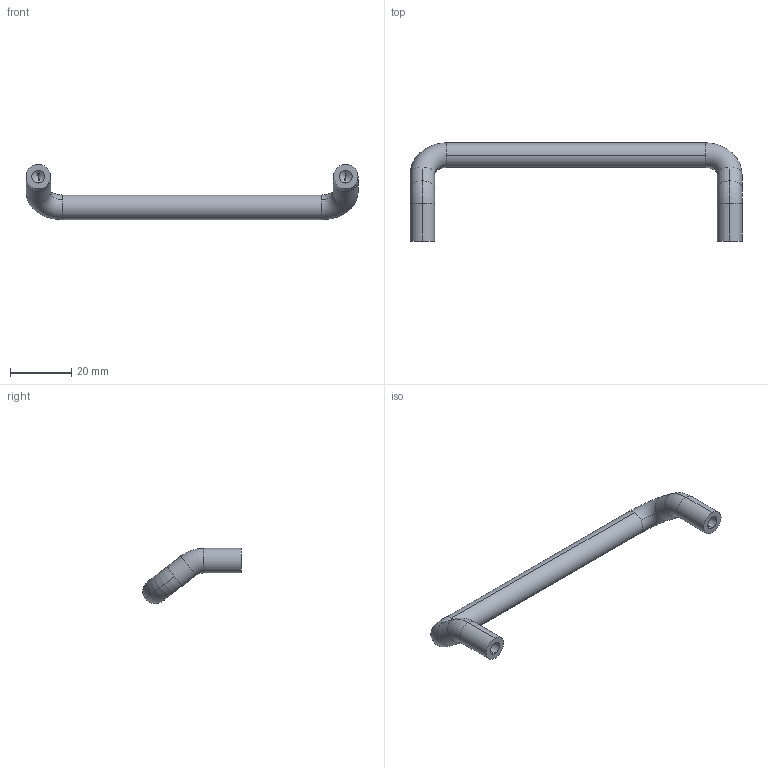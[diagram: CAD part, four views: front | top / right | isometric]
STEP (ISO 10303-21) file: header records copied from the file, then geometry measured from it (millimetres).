
FILE_DESCRIPTION (( 'STEP AP203' ), '1' );
FILE_NAME ('E07-53100.STEP', '2025-01-06T08:05:47', ( '' ), ( '' ), 'SwSTEP 2.0', 'SolidWorks 2021', '' );
FILE_SCHEMA (( 'CONFIG_CONTROL_DESIGN' ));
Length unit declared in the file: millimetre
Products named in the file (1): E07-53100
Bounding box: 108 x 32 x 18 mm (x, y, z)
Volume: 7529.7 mm3; surface area: 4278.2 mm2
Topology: 1 solids, 1 shells, 28 faces, 66 edges, 38 vertices
Faces by surface type: cylinder 14, torus 8, cone 4, plane 2
Entity records: 867 total; most frequent: DIRECTION 164, CARTESIAN_POINT 129, ORIENTED_EDGE 124, AXIS2_PLACEMENT_3D 73, EDGE_CURVE 62, CIRCLE 44, VERTEX_POINT 38, EDGE_LOOP 30
